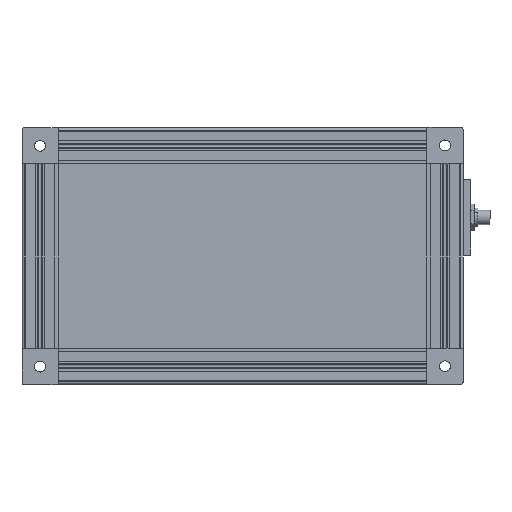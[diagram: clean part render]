
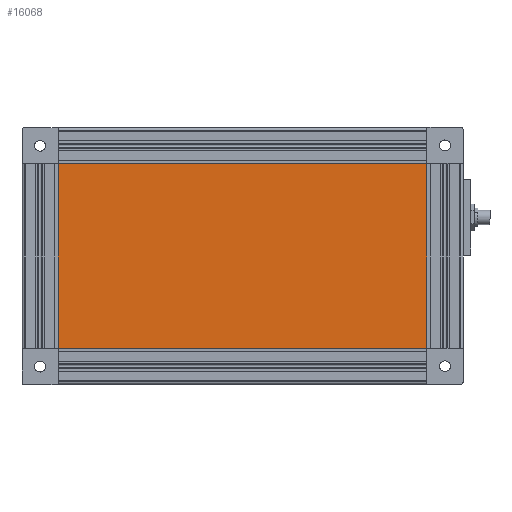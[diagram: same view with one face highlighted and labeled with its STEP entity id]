
A CAD part, front view. The second image highlights one B-rep face of the part: STEP entity #16068.
In plain terms, the highlighted planar face has unit normal (0, -1, 0).
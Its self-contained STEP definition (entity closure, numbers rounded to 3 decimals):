
#691 = VECTOR ( 'NONE', #3140, 1000. ) ;
#709 = LINE ( 'NONE', #3173, #691 ) ;
#815 = LINE ( 'NONE', #1791, #825 ) ;
#825 = VECTOR ( 'NONE', #1764, 1000. ) ;
#835 = LINE ( 'NONE', #2136, #861 ) ;
#847 = LINE ( 'NONE', #1927, #853 ) ;
#852 = LINE ( 'NONE', #2146, #867 ) ;
#853 = VECTOR ( 'NONE', #2156, 1000. ) ;
#861 = VECTOR ( 'NONE', #2154, 1000. ) ;
#862 = LINE ( 'NONE', #1828, #873 ) ;
#867 = VECTOR ( 'NONE', #1801, 1000. ) ;
#873 = VECTOR ( 'NONE', #1833, 1000. ) ;
#878 = LINE ( 'NONE', #1834, #879 ) ;
#879 = VECTOR ( 'NONE', #1840, 1000. ) ;
#1592 = EDGE_CURVE ( 'NONE', #21220, #22282, #709, .T. ) ;
#1687 = EDGE_CURVE ( 'NONE', #22292, #22297, #815, .T. ) ;
#1706 = EDGE_CURVE ( 'NONE', #22295, #22297, #847, .T. ) ;
#1710 = EDGE_CURVE ( 'NONE', #22295, #22293, #835, .T. ) ;
#1713 = EDGE_CURVE ( 'NONE', #22293, #22289, #852, .T. ) ;
#1716 = EDGE_CURVE ( 'NONE', #22289, #22280, #862, .T. ) ;
#1719 = EDGE_CURVE ( 'NONE', #22280, #22282, #878, .T. ) ;
#1764 = DIRECTION ( 'NONE',  ( 1., 0., 0. ) ) ;
#1791 = CARTESIAN_POINT ( 'NONE',  ( -275.036, 0., 76.5 ) ) ;
#1801 = DIRECTION ( 'NONE',  ( 0., 0., -1. ) ) ;
#1828 = CARTESIAN_POINT ( 'NONE',  ( -275.036, 0., 76.5 ) ) ;
#1833 = DIRECTION ( 'NONE',  ( 1., 0., 0. ) ) ;
#1834 = CARTESIAN_POINT ( 'NONE',  ( 157.203, 0., 0. ) ) ;
#1840 = DIRECTION ( 'NONE',  ( 0., 0., -1. ) ) ;
#1927 = CARTESIAN_POINT ( 'NONE',  ( -153., 0., 0. ) ) ;
#2136 = CARTESIAN_POINT ( 'NONE',  ( -275.036, 0., 80.704 ) ) ;
#2146 = CARTESIAN_POINT ( 'NONE',  ( 153., 0., 0. ) ) ;
#2154 = DIRECTION ( 'NONE',  ( 1., 0., 0. ) ) ;
#2156 = DIRECTION ( 'NONE',  ( 0., 0., -1. ) ) ;
#2679 = ORIENTED_EDGE ( 'NONE', *, *, #1687, .F. ) ;
#2680 = ORIENTED_EDGE ( 'NONE', *, *, #11872, .T. ) ;
#2681 = ORIENTED_EDGE ( 'NONE', *, *, #16556, .T. ) ;
#2682 = ORIENTED_EDGE ( 'NONE', *, *, #12358, .T. ) ;
#2683 = ORIENTED_EDGE ( 'NONE', *, *, #11891, .T. ) ;
#2684 = ORIENTED_EDGE ( 'NONE', *, *, #11889, .F. ) ;
#2713 = ORIENTED_EDGE ( 'NONE', *, *, #1592, .T. ) ;
#2722 = ORIENTED_EDGE ( 'NONE', *, *, #1719, .F. ) ;
#2723 = ORIENTED_EDGE ( 'NONE', *, *, #1716, .F. ) ;
#2726 = ORIENTED_EDGE ( 'NONE', *, *, #1710, .F. ) ;
#2727 = ORIENTED_EDGE ( 'NONE', *, *, #1713, .F. ) ;
#2729 = ORIENTED_EDGE ( 'NONE', *, *, #1706, .T. ) ;
#3140 = DIRECTION ( 'NONE',  ( 1., 0., 0. ) ) ;
#3173 = CARTESIAN_POINT ( 'NONE',  ( -275.036, 0., -76.5 ) ) ;
#5417 = CARTESIAN_POINT ( 'NONE',  ( -153., 0., 0. ) ) ;
#5420 = DIRECTION ( 'NONE',  ( 0., 0., -1. ) ) ;
#5887 = VECTOR ( 'NONE', #5420, 1000. ) ;
#6478 = FACE_OUTER_BOUND ( 'NONE', #12895, .T. ) ;
#6950 = VECTOR ( 'NONE', #9596, 1000. ) ;
#6956 = LINE ( 'NONE', #9595, #6950 ) ;
#7975 = CARTESIAN_POINT ( 'NONE',  ( -275.036, 0., 0. ) ) ;
#7980 = PLANE ( 'NONE',  #8520 ) ;
#7985 = DIRECTION ( 'NONE',  ( 0., 1., 0. ) ) ;
#7986 = DIRECTION ( 'NONE',  ( 0., 0., 1. ) ) ;
#8520 = AXIS2_PLACEMENT_3D ( 'NONE', #7975, #7985, #7986 ) ;
#9595 = CARTESIAN_POINT ( 'NONE',  ( -275.036, 0., -76.5 ) ) ;
#9596 = DIRECTION ( 'NONE',  ( 1., 0., 0. ) ) ;
#11872 = EDGE_CURVE ( 'NONE', #22292, #22281, #22865, .T. ) ;
#11889 = EDGE_CURVE ( 'NONE', #21220, #22299, #22889, .T. ) ;
#11891 = EDGE_CURVE ( 'NONE', #22301, #22299, #22902, .T. ) ;
#12358 = EDGE_CURVE ( 'NONE', #22303, #22301, #23548, .T. ) ;
#12895 = EDGE_LOOP ( 'NONE', ( #2713, #2722, #2723, #2727, #2726, #2729, #2679, #2680, #2681, #2682, #2683, #2684 ) ) ;
#14868 = CARTESIAN_POINT ( 'NONE',  ( 153., 0., -76.5 ) ) ;
#15472 = CARTESIAN_POINT ( 'NONE',  ( 157.203, 0., 76.5 ) ) ;
#15473 = CARTESIAN_POINT ( 'NONE',  ( -157.203, 0., -76.5 ) ) ;
#15474 = CARTESIAN_POINT ( 'NONE',  ( 157.203, 0., -76.5 ) ) ;
#15481 = CARTESIAN_POINT ( 'NONE',  ( 153., 0., 76.5 ) ) ;
#15484 = CARTESIAN_POINT ( 'NONE',  ( -157.203, 0., 76.5 ) ) ;
#15485 = CARTESIAN_POINT ( 'NONE',  ( 153., 0., 80.704 ) ) ;
#15487 = CARTESIAN_POINT ( 'NONE',  ( -153., 0., 80.704 ) ) ;
#15489 = CARTESIAN_POINT ( 'NONE',  ( -153., 0., 76.5 ) ) ;
#15491 = CARTESIAN_POINT ( 'NONE',  ( 153., 0., -80.704 ) ) ;
#15493 = CARTESIAN_POINT ( 'NONE',  ( -153., 0., -80.704 ) ) ;
#15495 = CARTESIAN_POINT ( 'NONE',  ( -153., 0., -76.5 ) ) ;
#16068 = ADVANCED_FACE ( 'NONE', ( #6478 ), #7980, .F. ) ;
#16556 = EDGE_CURVE ( 'NONE', #22281, #22303, #6956, .T. ) ;
#21220 = VERTEX_POINT ( 'NONE', #14868 ) ;
#21576 = CARTESIAN_POINT ( 'NONE',  ( -157.203, 0., 0. ) ) ;
#21577 = DIRECTION ( 'NONE',  ( 0., 0., -1. ) ) ;
#21591 = CARTESIAN_POINT ( 'NONE',  ( 153., 0., 0. ) ) ;
#21594 = DIRECTION ( 'NONE',  ( 0., 0., -1. ) ) ;
#21595 = CARTESIAN_POINT ( 'NONE',  ( -275.036, 0., -80.704 ) ) ;
#21596 = DIRECTION ( 'NONE',  ( 1., 0., 0. ) ) ;
#22280 = VERTEX_POINT ( 'NONE', #15472 ) ;
#22281 = VERTEX_POINT ( 'NONE', #15473 ) ;
#22282 = VERTEX_POINT ( 'NONE', #15474 ) ;
#22289 = VERTEX_POINT ( 'NONE', #15481 ) ;
#22292 = VERTEX_POINT ( 'NONE', #15484 ) ;
#22293 = VERTEX_POINT ( 'NONE', #15485 ) ;
#22295 = VERTEX_POINT ( 'NONE', #15487 ) ;
#22297 = VERTEX_POINT ( 'NONE', #15489 ) ;
#22299 = VERTEX_POINT ( 'NONE', #15491 ) ;
#22301 = VERTEX_POINT ( 'NONE', #15493 ) ;
#22303 = VERTEX_POINT ( 'NONE', #15495 ) ;
#22865 = LINE ( 'NONE', #21576, #22884 ) ;
#22884 = VECTOR ( 'NONE', #21577, 1000. ) ;
#22889 = LINE ( 'NONE', #21591, #22900 ) ;
#22900 = VECTOR ( 'NONE', #21594, 1000. ) ;
#22902 = LINE ( 'NONE', #21595, #22903 ) ;
#22903 = VECTOR ( 'NONE', #21596, 1000. ) ;
#23548 = LINE ( 'NONE', #5417, #5887 ) ;
